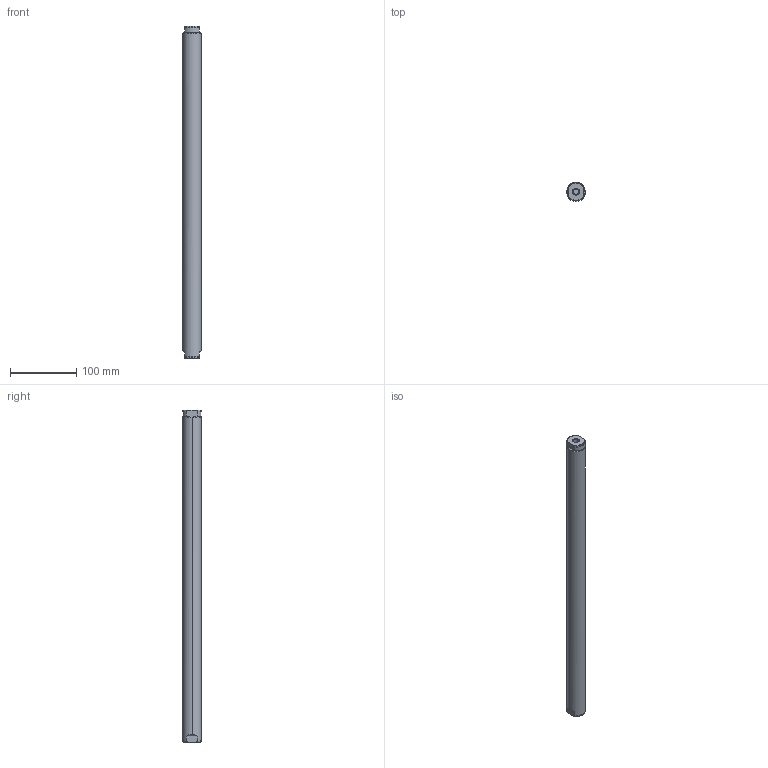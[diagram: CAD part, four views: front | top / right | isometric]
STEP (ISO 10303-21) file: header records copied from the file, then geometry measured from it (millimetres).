
FILE_DESCRIPTION (( 'STEP AP214' ), '1' );
FILE_NAME ('PL01-28x500!420.STEP', '2004-06-16T08:10:37', ( 'Mitarbeiter' ), ( 'Firma' ), 'SwSTEP 2.0', 'SolidWorks 2001287', '' );
FILE_SCHEMA (( 'AUTOMOTIVE_DESIGN' ));
Length unit declared in the file: millimetre
Products named in the file (1): PL01-28x500!420
Bounding box: 28 x 28 x 500 mm (x, y, z)
Volume: 304476.3 mm3; surface area: 45939.1 mm2
Topology: 1 solids, 1 shells, 41 faces, 104 edges, 68 vertices
Faces by surface type: plane 15, cylinder 10, cone 8, torus 8
Entity records: 1353 total; most frequent: CARTESIAN_POINT 374, ORIENTED_EDGE 208, DIRECTION 192, EDGE_CURVE 104, AXIS2_PLACEMENT_3D 78, VERTEX_POINT 68, EDGE_LOOP 44, ADVANCED_FACE 41
